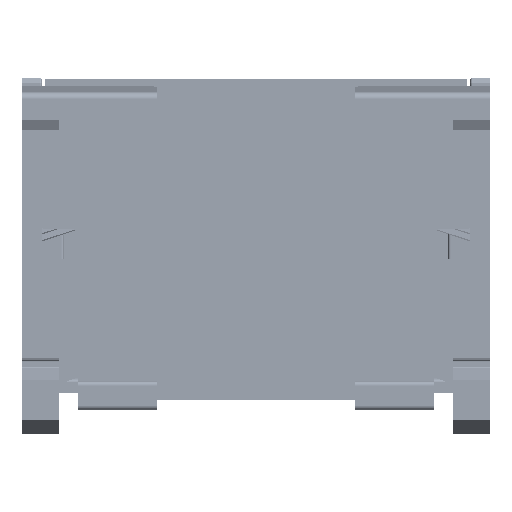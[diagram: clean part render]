
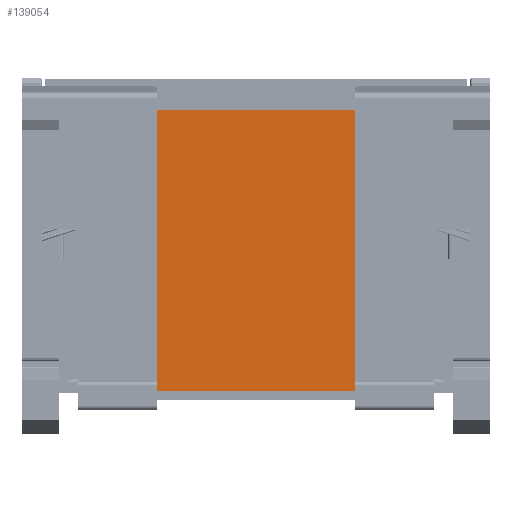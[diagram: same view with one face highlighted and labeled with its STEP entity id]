
A CAD part, left-side view. The second image highlights one B-rep face of the part: STEP entity #139054.
In plain terms, the highlighted planar face has unit normal (-1, 0, 0).
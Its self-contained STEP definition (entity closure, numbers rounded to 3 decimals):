
#14281 = ORIENTED_EDGE ( 'NONE', *, *, #167113, .T. ) ;
#20930 = PLANE ( 'NONE',  #160739 ) ;
#31183 = VERTEX_POINT ( 'NONE', #143161 ) ;
#51192 = VECTOR ( 'NONE', #106026, 1000. ) ;
#52022 = VERTEX_POINT ( 'NONE', #263027 ) ;
#53006 = EDGE_CURVE ( 'NONE', #31183, #52022, #354830, .T. ) ;
#75548 = LINE ( 'NONE', #330840, #195800 ) ;
#82479 = LINE ( 'NONE', #113857, #180440 ) ;
#82918 = VECTOR ( 'NONE', #325248, 1000. ) ;
#106026 = DIRECTION ( 'NONE',  ( 0., 0., -1. ) ) ;
#113857 = CARTESIAN_POINT ( 'NONE',  ( 6.1, 2.4, 42.302 ) ) ;
#130065 = VERTEX_POINT ( 'NONE', #289380 ) ;
#138266 = EDGE_LOOP ( 'NONE', ( #14281, #275119, #263682, #340047 ) ) ;
#139054 = ADVANCED_FACE ( 'NONE', ( #357695 ), #20930, .T. ) ;
#143161 = CARTESIAN_POINT ( 'NONE',  ( 6.1, 18.5, 42.302 ) ) ;
#158848 = VERTEX_POINT ( 'NONE', #222093 ) ;
#160739 = AXIS2_PLACEMENT_3D ( 'NONE', #328106, #272599, #241220 ) ;
#167113 = EDGE_CURVE ( 'NONE', #158848, #130065, #189354, .T. ) ;
#180440 = VECTOR ( 'NONE', #228590, 1000. ) ;
#187792 = EDGE_CURVE ( 'NONE', #158848, #31183, #82479, .T. ) ;
#189354 = LINE ( 'NONE', #246677, #51192 ) ;
#195800 = VECTOR ( 'NONE', #216169, 1000. ) ;
#216169 = DIRECTION ( 'NONE',  ( 0., 1., 0. ) ) ;
#222093 = CARTESIAN_POINT ( 'NONE',  ( 6.1, 45.5, 42.302 ) ) ;
#227086 = EDGE_CURVE ( 'NONE', #52022, #130065, #75548, .T. ) ;
#228590 = DIRECTION ( 'NONE',  ( 0., -1., 0. ) ) ;
#241220 = DIRECTION ( 'NONE',  ( 0., 0., -1. ) ) ;
#246677 = CARTESIAN_POINT ( 'NONE',  ( 6.1, 45.5, 32.452 ) ) ;
#263027 = CARTESIAN_POINT ( 'NONE',  ( 6.1, 18.5, 3.902 ) ) ;
#263682 = ORIENTED_EDGE ( 'NONE', *, *, #53006, .F. ) ;
#272599 = DIRECTION ( 'NONE',  ( -1., 0., 0. ) ) ;
#275119 = ORIENTED_EDGE ( 'NONE', *, *, #227086, .F. ) ;
#289380 = CARTESIAN_POINT ( 'NONE',  ( 6.1, 45.5, 3.902 ) ) ;
#297486 = CARTESIAN_POINT ( 'NONE',  ( 6.1, 18.5, 32.452 ) ) ;
#325248 = DIRECTION ( 'NONE',  ( 0., 0., -1. ) ) ;
#328106 = CARTESIAN_POINT ( 'NONE',  ( 6.1, 2.4, 13.952 ) ) ;
#330840 = CARTESIAN_POINT ( 'NONE',  ( 6.1, 2.4, 3.902 ) ) ;
#340047 = ORIENTED_EDGE ( 'NONE', *, *, #187792, .F. ) ;
#354830 = LINE ( 'NONE', #297486, #82918 ) ;
#357695 = FACE_OUTER_BOUND ( 'NONE', #138266, .T. ) ;
